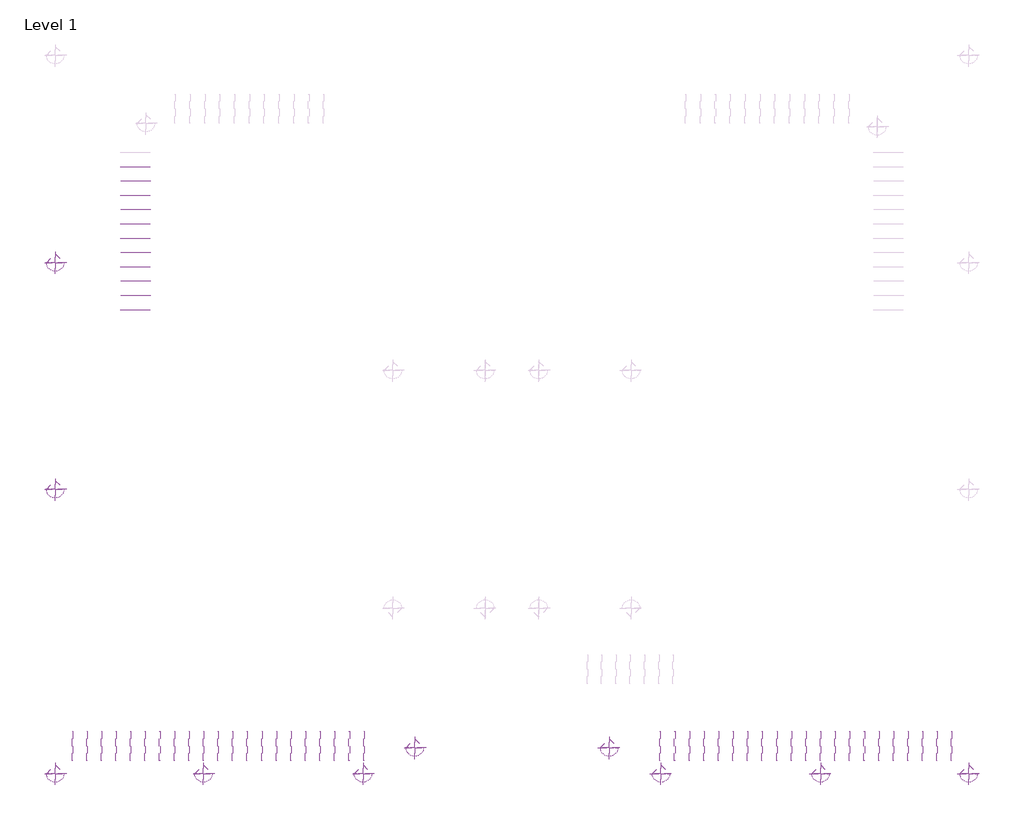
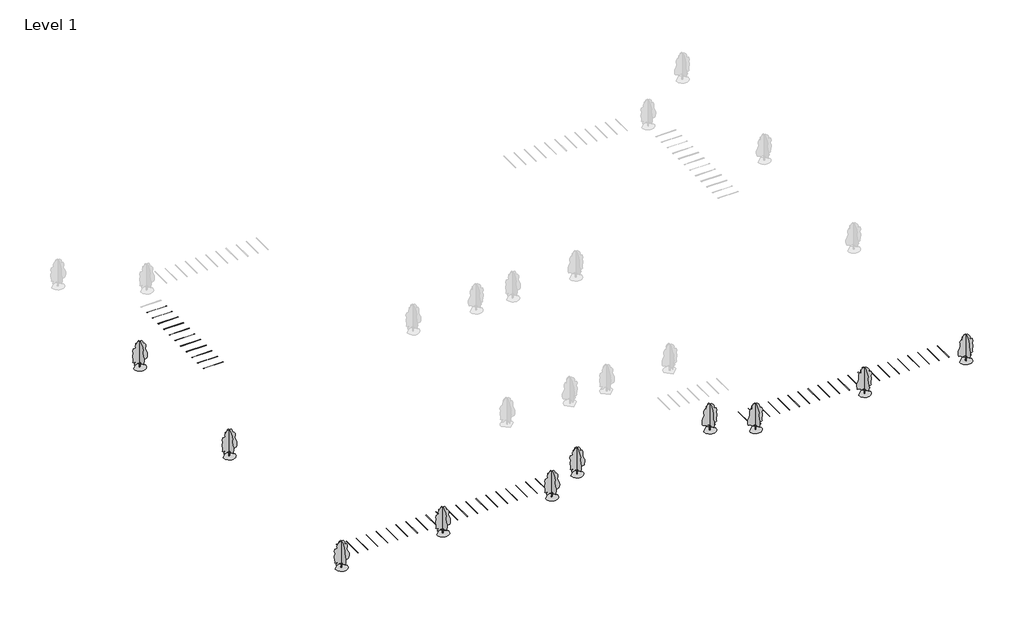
# One storey, part 1 of 2: 53 proxies, 10 geographic elements.
"""IFC4 building model written with IfcOpenShell, lengths in millimetres."""

from ifc_helpers import new_model, si_unit, origin, place, context, project, spatial, transform, mapped, element, save
from components import parking_space_9_x_18_90_deg_9fe051ab, parking_space_9_x_18_90_deg_b8b21359, rpc_tree_deciduous_red_ash_25_14781bec, rpc_tree_deciduous_red_ash_25_de8497d4

model = new_model("IFC4")

# Units and contexts
model_context = context("Model", 3, world=origin())
ifc_project = project(units=[si_unit("LENGTHUNIT", "METRE", prefix="MILLI")], contexts=[model_context])

# Site, building, storey
site = spatial("IfcSite", under=ifc_project)
building = spatial("IfcBuilding", under=site)
storey = spatial("IfcBuildingStorey", under=building, Name="Level 1", Elevation=0.0)

# Proxies
placement = place(None, origin())
parking_space_9_x_18_90_deg_shape = parking_space_9_x_18_90_deg_9fe051ab(model_context)
element("IfcBuildingElementProxy", 1, Name="Parking Space : 9' x 18' - 90 deg", ObjectType="Parking Space : 9' x 18' - 90 deg", at=placement, inside=storey, context=model_context, shape_type="MappedRepresentation", body=[
    mapped(parking_space_9_x_18_90_deg_shape, transform((-7609.1619016, -136535.1218628, 3124.2), x_axis=(-1.0, 0.0, 0.0), y_axis=(0.0, -1.0, 0.0), z_axis=(0.0, 0.0, 1.0))),
])
element("IfcBuildingElementProxy", 2, Name="Parking Space : 9' x 18' - 90 deg", ObjectType="Parking Space : 9' x 18' - 90 deg", at=placement, inside=storey, context=model_context, shape_type="MappedRepresentation", body=[
    mapped(parking_space_9_x_18_90_deg_shape, transform((-10352.3619016, -136535.1218628, 3124.2), x_axis=(-1.0, 0.0, 0.0), y_axis=(0.0, -1.0, 0.0), z_axis=(0.0, 0.0, 1.0))),
])
element("IfcBuildingElementProxy", 3, Name="Parking Space : 9' x 18' - 90 deg", ObjectType="Parking Space : 9' x 18' - 90 deg", at=placement, inside=storey, context=model_context, shape_type="MappedRepresentation", body=[
    mapped(parking_space_9_x_18_90_deg_shape, transform((-13095.5619016, -136535.1218628, 3124.2), x_axis=(-1.0, 0.0, 0.0), y_axis=(0.0, -1.0, 0.0), z_axis=(0.0, 0.0, 1.0))),
])
element("IfcBuildingElementProxy", 4, Name="Parking Space : 9' x 18' - 90 deg", ObjectType="Parking Space : 9' x 18' - 90 deg", at=placement, inside=storey, context=model_context, shape_type="MappedRepresentation", body=[
    mapped(parking_space_9_x_18_90_deg_shape, transform((-15838.7619016, -136535.1218628, 3124.2), x_axis=(-1.0, 0.0, 0.0), y_axis=(0.0, -1.0, 0.0), z_axis=(0.0, 0.0, 1.0))),
])
element("IfcBuildingElementProxy", 5, Name="Parking Space : 9' x 18' - 90 deg", ObjectType="Parking Space : 9' x 18' - 90 deg", at=placement, inside=storey, context=model_context, shape_type="MappedRepresentation", body=[
    mapped(parking_space_9_x_18_90_deg_shape, transform((-18581.9619016, -136535.1218628, 3124.2), x_axis=(-1.0, 0.0, 0.0), y_axis=(0.0, -1.0, 0.0), z_axis=(0.0, 0.0, 1.0))),
])
element("IfcBuildingElementProxy", 6, Name="Parking Space : 9' x 18' - 90 deg", ObjectType="Parking Space : 9' x 18' - 90 deg", at=placement, inside=storey, context=model_context, shape_type="MappedRepresentation", body=[
    mapped(parking_space_9_x_18_90_deg_shape, transform((-21325.1619016, -136535.1218628, 3124.2), x_axis=(-1.0, 0.0, 0.0), y_axis=(0.0, -1.0, 0.0), z_axis=(0.0, 0.0, 1.0))),
])
element("IfcBuildingElementProxy", 7, Name="Parking Space : 9' x 18' - 90 deg", ObjectType="Parking Space : 9' x 18' - 90 deg", at=placement, inside=storey, context=model_context, shape_type="MappedRepresentation", body=[
    mapped(parking_space_9_x_18_90_deg_shape, transform((-24068.3619016, -136535.1218628, 3124.2), x_axis=(-1.0, 0.0, 0.0), y_axis=(0.0, -1.0, 0.0), z_axis=(0.0, 0.0, 1.0))),
])
element("IfcBuildingElementProxy", 8, Name="Parking Space : 9' x 18' - 90 deg", ObjectType="Parking Space : 9' x 18' - 90 deg", at=placement, inside=storey, context=model_context, shape_type="MappedRepresentation", body=[
    mapped(parking_space_9_x_18_90_deg_shape, transform((-26811.5619016, -136535.1218628, 3124.2), x_axis=(-1.0, 0.0, 0.0), y_axis=(0.0, -1.0, 0.0), z_axis=(0.0, 0.0, 1.0))),
])
element("IfcBuildingElementProxy", 9, Name="Parking Space : 9' x 18' - 90 deg", ObjectType="Parking Space : 9' x 18' - 90 deg", at=placement, inside=storey, context=model_context, shape_type="MappedRepresentation", body=[
    mapped(parking_space_9_x_18_90_deg_shape, transform((-29554.7619016, -136535.1218628, 3124.2), x_axis=(-1.0, 0.0, 0.0), y_axis=(0.0, -1.0, 0.0), z_axis=(0.0, 0.0, 1.0))),
])
element("IfcBuildingElementProxy", 10, Name="Parking Space : 9' x 18' - 90 deg", ObjectType="Parking Space : 9' x 18' - 90 deg", at=placement, inside=storey, context=model_context, shape_type="MappedRepresentation", body=[
    mapped(parking_space_9_x_18_90_deg_shape, transform((-32297.9619016, -136535.1218628, 3124.2), x_axis=(-1.0, 0.0, 0.0), y_axis=(0.0, -1.0, 0.0), z_axis=(0.0, 0.0, 1.0))),
])
element("IfcBuildingElementProxy", 11, Name="Parking Space : 9' x 18' - 90 deg", ObjectType="Parking Space : 9' x 18' - 90 deg", at=placement, inside=storey, context=model_context, shape_type="MappedRepresentation", body=[
    mapped(parking_space_9_x_18_90_deg_shape, transform((-35041.1619016, -136535.1218628, 3124.2), x_axis=(-1.0, 0.0, 0.0), y_axis=(0.0, -1.0, 0.0), z_axis=(0.0, 0.0, 1.0))),
])
element("IfcBuildingElementProxy", 12, Name="Parking Space : 9' x 18' - 90 deg", ObjectType="Parking Space : 9' x 18' - 90 deg", at=placement, inside=storey, context=model_context, shape_type="MappedRepresentation", body=[
    mapped(parking_space_9_x_18_90_deg_shape, transform((-37784.3619016, -136535.1218628, 3124.2), x_axis=(-1.0, 0.0, 0.0), y_axis=(0.0, -1.0, 0.0), z_axis=(0.0, 0.0, 1.0))),
])
element("IfcBuildingElementProxy", 13, Name="Parking Space : 9' x 18' - 90 deg", ObjectType="Parking Space : 9' x 18' - 90 deg", at=placement, inside=storey, context=model_context, shape_type="MappedRepresentation", body=[
    mapped(parking_space_9_x_18_90_deg_shape, transform((-40527.5619016, -136535.1218628, 3124.2), x_axis=(-1.0, 0.0, 0.0), y_axis=(0.0, -1.0, 0.0), z_axis=(0.0, 0.0, 1.0))),
])
element("IfcBuildingElementProxy", 14, Name="Parking Space : 9' x 18' - 90 deg", ObjectType="Parking Space : 9' x 18' - 90 deg", at=placement, inside=storey, context=model_context, shape_type="MappedRepresentation", body=[
    mapped(parking_space_9_x_18_90_deg_shape, transform((-43270.7619016, -136535.1218628, 3124.2), x_axis=(-1.0, 0.0, 0.0), y_axis=(0.0, -1.0, 0.0), z_axis=(0.0, 0.0, 1.0))),
])
element("IfcBuildingElementProxy", 15, Name="Parking Space : 9' x 18' - 90 deg", ObjectType="Parking Space : 9' x 18' - 90 deg", at=placement, inside=storey, context=model_context, shape_type="MappedRepresentation", body=[
    mapped(parking_space_9_x_18_90_deg_shape, transform((-46013.9619016, -136535.1218628, 3124.2), x_axis=(-1.0, 0.0, 0.0), y_axis=(0.0, -1.0, 0.0), z_axis=(0.0, 0.0, 1.0))),
])
element("IfcBuildingElementProxy", 16, Name="Parking Space : 9' x 18' - 90 deg", ObjectType="Parking Space : 9' x 18' - 90 deg", at=placement, inside=storey, context=model_context, shape_type="MappedRepresentation", body=[
    mapped(parking_space_9_x_18_90_deg_shape, transform((-48757.1619016, -136535.1218628, 3124.2), x_axis=(-1.0, 0.0, 0.0), y_axis=(0.0, -1.0, 0.0), z_axis=(0.0, 0.0, 1.0))),
])
element("IfcBuildingElementProxy", 17, Name="Parking Space : 9' x 18' - 90 deg", ObjectType="Parking Space : 9' x 18' - 90 deg", at=placement, inside=storey, context=model_context, shape_type="MappedRepresentation", body=[
    mapped(parking_space_9_x_18_90_deg_shape, transform((-51500.3619016, -136535.1218628, 3124.2), x_axis=(-1.0, 0.0, 0.0), y_axis=(0.0, -1.0, 0.0), z_axis=(0.0, 0.0, 1.0))),
])
element("IfcBuildingElementProxy", 18, Name="Parking Space : 9' x 18' - 90 deg", ObjectType="Parking Space : 9' x 18' - 90 deg", at=placement, inside=storey, context=model_context, shape_type="MappedRepresentation", body=[
    mapped(parking_space_9_x_18_90_deg_shape, transform((-54243.5619016, -136535.1218628, 3124.2), x_axis=(-1.0, 0.0, 0.0), y_axis=(0.0, -1.0, 0.0), z_axis=(0.0, 0.0, 1.0))),
])
element("IfcBuildingElementProxy", 19, Name="Parking Space : 9' x 18' - 90 deg", ObjectType="Parking Space : 9' x 18' - 90 deg", at=placement, inside=storey, context=model_context, shape_type="MappedRepresentation", body=[
    mapped(parking_space_9_x_18_90_deg_shape, transform((-56986.7619016, -136535.1218628, 3124.2), x_axis=(-1.0, 0.0, 0.0), y_axis=(0.0, -1.0, 0.0), z_axis=(0.0, 0.0, 1.0))),
])
element("IfcBuildingElementProxy", 20, Name="Parking Space : 9' x 18' - 90 deg", ObjectType="Parking Space : 9' x 18' - 90 deg", at=placement, inside=storey, context=model_context, shape_type="MappedRepresentation", body=[
    mapped(parking_space_9_x_18_90_deg_shape, transform((-59729.9619016, -136535.1218628, 3124.2), x_axis=(-1.0, 0.0, 0.0), y_axis=(0.0, -1.0, 0.0), z_axis=(0.0, 0.0, 1.0))),
])
element("IfcBuildingElementProxy", 21, Name="Parking Space : 9' x 18' - 90 deg", ObjectType="Parking Space : 9' x 18' - 90 deg", at=placement, inside=storey, context=model_context, shape_type="MappedRepresentation", body=[
    mapped(parking_space_9_x_18_90_deg_shape, transform((-62473.1619016, -136535.1218628, 3124.2), x_axis=(-1.0, 0.0, 0.0), y_axis=(0.0, -1.0, 0.0), z_axis=(0.0, 0.0, 1.0))),
])
element("IfcBuildingElementProxy", 22, Name="Parking Space : 9' x 18' - 90 deg", ObjectType="Parking Space : 9' x 18' - 90 deg", at=placement, inside=storey, context=model_context, shape_type="MappedRepresentation", body=[
    mapped(parking_space_9_x_18_90_deg_shape, transform((-163971.5541504, -30261.5218628, 3124.2), x_axis=(0.0, -1.0, 0.0), y_axis=(1.0, 0.0, 0.0), z_axis=(0.0, 0.0, 1.0))),
])
element("IfcBuildingElementProxy", 23, Name="Parking Space : 9' x 18' - 90 deg", ObjectType="Parking Space : 9' x 18' - 90 deg", at=placement, inside=storey, context=model_context, shape_type="MappedRepresentation", body=[
    mapped(parking_space_9_x_18_90_deg_shape, transform((-163971.5541504, -32953.9218628, 3124.2), x_axis=(0.0, -1.0, 0.0), y_axis=(1.0, 0.0, 0.0), z_axis=(0.0, 0.0, 1.0))),
])
element("IfcBuildingElementProxy", 24, Name="Parking Space : 9' x 18' - 90 deg", ObjectType="Parking Space : 9' x 18' - 90 deg", at=placement, inside=storey, context=model_context, shape_type="MappedRepresentation", body=[
    mapped(parking_space_9_x_18_90_deg_shape, transform((-163971.5541504, -35646.3218628, 3124.2), x_axis=(0.0, -1.0, 0.0), y_axis=(1.0, 0.0, 0.0), z_axis=(0.0, 0.0, 1.0))),
])
element("IfcBuildingElementProxy", 25, Name="Parking Space : 9' x 18' - 90 deg", ObjectType="Parking Space : 9' x 18' - 90 deg", at=placement, inside=storey, context=model_context, shape_type="MappedRepresentation", body=[
    mapped(parking_space_9_x_18_90_deg_shape, transform((-163971.5541504, -38338.7218628, 3124.2), x_axis=(0.0, -1.0, 0.0), y_axis=(1.0, 0.0, 0.0), z_axis=(0.0, 0.0, 1.0))),
])
element("IfcBuildingElementProxy", 26, Name="Parking Space : 9' x 18' - 90 deg", ObjectType="Parking Space : 9' x 18' - 90 deg", at=placement, inside=storey, context=model_context, shape_type="MappedRepresentation", body=[
    mapped(parking_space_9_x_18_90_deg_shape, transform((-163971.5541504, -41031.1218628, 3124.2), x_axis=(0.0, -1.0, 0.0), y_axis=(1.0, 0.0, 0.0), z_axis=(0.0, 0.0, 1.0))),
])
element("IfcBuildingElementProxy", 27, Name="Parking Space : 9' x 18' - 90 deg", ObjectType="Parking Space : 9' x 18' - 90 deg", at=placement, inside=storey, context=model_context, shape_type="MappedRepresentation", body=[
    mapped(parking_space_9_x_18_90_deg_shape, transform((-163971.5541504, -43723.5218628, 3124.2), x_axis=(0.0, -1.0, 0.0), y_axis=(1.0, 0.0, 0.0), z_axis=(0.0, 0.0, 1.0))),
])
element("IfcBuildingElementProxy", 28, Name="Parking Space : 9' x 18' - 90 deg", ObjectType="Parking Space : 9' x 18' - 90 deg", at=placement, inside=storey, context=model_context, shape_type="MappedRepresentation", body=[
    mapped(parking_space_9_x_18_90_deg_shape, transform((-163971.5541504, -46415.9218628, 3124.2), x_axis=(0.0, -1.0, 0.0), y_axis=(1.0, 0.0, 0.0), z_axis=(0.0, 0.0, 1.0))),
])
element("IfcBuildingElementProxy", 29, Name="Parking Space : 9' x 18' - 90 deg", ObjectType="Parking Space : 9' x 18' - 90 deg", at=placement, inside=storey, context=model_context, shape_type="MappedRepresentation", body=[
    mapped(parking_space_9_x_18_90_deg_shape, transform((-163971.5541504, -49108.3218628, 3124.2), x_axis=(0.0, -1.0, 0.0), y_axis=(1.0, 0.0, 0.0), z_axis=(0.0, 0.0, 1.0))),
])
element("IfcBuildingElementProxy", 30, Name="Parking Space : 9' x 18' - 90 deg", ObjectType="Parking Space : 9' x 18' - 90 deg", at=placement, inside=storey, context=model_context, shape_type="MappedRepresentation", body=[
    mapped(parking_space_9_x_18_90_deg_shape, transform((-163971.5541504, -51800.7218628, 3124.2), x_axis=(0.0, -1.0, 0.0), y_axis=(1.0, 0.0, 0.0), z_axis=(0.0, 0.0, 1.0))),
])
element("IfcBuildingElementProxy", 31, Name="Parking Space : 9' x 18' - 90 deg", ObjectType="Parking Space : 9' x 18' - 90 deg", at=placement, inside=storey, context=model_context, shape_type="MappedRepresentation", body=[
    mapped(parking_space_9_x_18_90_deg_shape, transform((-163971.5541504, -54493.1218628, 3124.2), x_axis=(0.0, -1.0, 0.0), y_axis=(1.0, 0.0, 0.0), z_axis=(0.0, 0.0, 1.0))),
])
element("IfcBuildingElementProxy", 32, Name="Parking Space : 9' x 18' - 90 deg", ObjectType="Parking Space : 9' x 18' - 90 deg", at=placement, inside=storey, context=model_context, shape_type="MappedRepresentation", body=[
    mapped(parking_space_9_x_18_90_deg_shape, transform((-163971.5541504, -57185.5218628, 3124.2), x_axis=(0.0, -1.0, 0.0), y_axis=(1.0, 0.0, 0.0), z_axis=(0.0, 0.0, 1.0))),
])
parking_space_9_x_18_90_deg_2_shape = parking_space_9_x_18_90_deg_b8b21359(model_context)
element("IfcBuildingElementProxy", 33, Name="Parking Space : 9' x 18' - 90 deg", ObjectType="Parking Space : 9' x 18' - 90 deg", at=placement, inside=storey, context=model_context, shape_type="MappedRepresentation", body=[
    mapped(parking_space_9_x_18_90_deg_2_shape, transform((-173115.5541504, -136535.1218628, 3200.4), x_axis=(1.0, 0.0, 0.0), y_axis=(0.0, 1.0, 0.0), z_axis=(0.0, 0.0, 1.0))),
])
element("IfcBuildingElementProxy", 34, Name="Parking Space : 9' x 18' - 90 deg", ObjectType="Parking Space : 9' x 18' - 90 deg", at=placement, inside=storey, context=model_context, shape_type="MappedRepresentation", body=[
    mapped(parking_space_9_x_18_90_deg_2_shape, transform((-170372.3541504, -136535.1218628, 3124.2), x_axis=(1.0, 0.0, 0.0), y_axis=(0.0, 1.0, 0.0), z_axis=(0.0, 0.0, 1.0))),
])
element("IfcBuildingElementProxy", 35, Name="Parking Space : 9' x 18' - 90 deg", ObjectType="Parking Space : 9' x 18' - 90 deg", at=placement, inside=storey, context=model_context, shape_type="MappedRepresentation", body=[
    mapped(parking_space_9_x_18_90_deg_2_shape, transform((-167629.1541504, -136535.1218628, 3124.2), x_axis=(1.0, 0.0, 0.0), y_axis=(0.0, 1.0, 0.0), z_axis=(0.0, 0.0, 1.0))),
])
element("IfcBuildingElementProxy", 36, Name="Parking Space : 9' x 18' - 90 deg", ObjectType="Parking Space : 9' x 18' - 90 deg", at=placement, inside=storey, context=model_context, shape_type="MappedRepresentation", body=[
    mapped(parking_space_9_x_18_90_deg_2_shape, transform((-164885.9541504, -136535.1218628, 3124.2), x_axis=(1.0, 0.0, 0.0), y_axis=(0.0, 1.0, 0.0), z_axis=(0.0, 0.0, 1.0))),
])
element("IfcBuildingElementProxy", 37, Name="Parking Space : 9' x 18' - 90 deg", ObjectType="Parking Space : 9' x 18' - 90 deg", at=placement, inside=storey, context=model_context, shape_type="MappedRepresentation", body=[
    mapped(parking_space_9_x_18_90_deg_2_shape, transform((-162142.7541504, -136535.1218628, 3124.2), x_axis=(1.0, 0.0, 0.0), y_axis=(0.0, 1.0, 0.0), z_axis=(0.0, 0.0, 1.0))),
])
element("IfcBuildingElementProxy", 38, Name="Parking Space : 9' x 18' - 90 deg", ObjectType="Parking Space : 9' x 18' - 90 deg", at=placement, inside=storey, context=model_context, shape_type="MappedRepresentation", body=[
    mapped(parking_space_9_x_18_90_deg_2_shape, transform((-159399.5541504, -136535.1218628, 3124.2), x_axis=(1.0, 0.0, 0.0), y_axis=(0.0, 1.0, 0.0), z_axis=(0.0, 0.0, 1.0))),
])
element("IfcBuildingElementProxy", 39, Name="Parking Space : 9' x 18' - 90 deg", ObjectType="Parking Space : 9' x 18' - 90 deg", at=placement, inside=storey, context=model_context, shape_type="MappedRepresentation", body=[
    mapped(parking_space_9_x_18_90_deg_2_shape, transform((-156656.3541504, -136535.1218628, 3124.2), x_axis=(1.0, 0.0, 0.0), y_axis=(0.0, 1.0, 0.0), z_axis=(0.0, 0.0, 1.0))),
])
element("IfcBuildingElementProxy", 40, Name="Parking Space : 9' x 18' - 90 deg", ObjectType="Parking Space : 9' x 18' - 90 deg", at=placement, inside=storey, context=model_context, shape_type="MappedRepresentation", body=[
    mapped(parking_space_9_x_18_90_deg_2_shape, transform((-153913.1541504, -136535.1218628, 3124.2), x_axis=(1.0, 0.0, 0.0), y_axis=(0.0, 1.0, 0.0), z_axis=(0.0, 0.0, 1.0))),
])
element("IfcBuildingElementProxy", 41, Name="Parking Space : 9' x 18' - 90 deg", ObjectType="Parking Space : 9' x 18' - 90 deg", at=placement, inside=storey, context=model_context, shape_type="MappedRepresentation", body=[
    mapped(parking_space_9_x_18_90_deg_2_shape, transform((-151169.9541504, -136535.1218628, 3124.2), x_axis=(1.0, 0.0, 0.0), y_axis=(0.0, 1.0, 0.0), z_axis=(0.0, 0.0, 1.0))),
])
element("IfcBuildingElementProxy", 42, Name="Parking Space : 9' x 18' - 90 deg", ObjectType="Parking Space : 9' x 18' - 90 deg", at=placement, inside=storey, context=model_context, shape_type="MappedRepresentation", body=[
    mapped(parking_space_9_x_18_90_deg_2_shape, transform((-148426.7541504, -136535.1218628, 3124.2), x_axis=(1.0, 0.0, 0.0), y_axis=(0.0, 1.0, 0.0), z_axis=(0.0, 0.0, 1.0))),
])
element("IfcBuildingElementProxy", 43, Name="Parking Space : 9' x 18' - 90 deg", ObjectType="Parking Space : 9' x 18' - 90 deg", at=placement, inside=storey, context=model_context, shape_type="MappedRepresentation", body=[
    mapped(parking_space_9_x_18_90_deg_2_shape, transform((-145683.5541504, -136535.1218628, 3124.2), x_axis=(1.0, 0.0, 0.0), y_axis=(0.0, 1.0, 0.0), z_axis=(0.0, 0.0, 1.0))),
])
element("IfcBuildingElementProxy", 44, Name="Parking Space : 9' x 18' - 90 deg", ObjectType="Parking Space : 9' x 18' - 90 deg", at=placement, inside=storey, context=model_context, shape_type="MappedRepresentation", body=[
    mapped(parking_space_9_x_18_90_deg_2_shape, transform((-142940.3541504, -136535.1218628, 3124.2), x_axis=(1.0, 0.0, 0.0), y_axis=(0.0, 1.0, 0.0), z_axis=(0.0, 0.0, 1.0))),
])
element("IfcBuildingElementProxy", 45, Name="Parking Space : 9' x 18' - 90 deg", ObjectType="Parking Space : 9' x 18' - 90 deg", at=placement, inside=storey, context=model_context, shape_type="MappedRepresentation", body=[
    mapped(parking_space_9_x_18_90_deg_2_shape, transform((-140197.1541504, -136535.1218628, 3124.2), x_axis=(1.0, 0.0, 0.0), y_axis=(0.0, 1.0, 0.0), z_axis=(0.0, 0.0, 1.0))),
])
element("IfcBuildingElementProxy", 46, Name="Parking Space : 9' x 18' - 90 deg", ObjectType="Parking Space : 9' x 18' - 90 deg", at=placement, inside=storey, context=model_context, shape_type="MappedRepresentation", body=[
    mapped(parking_space_9_x_18_90_deg_2_shape, transform((-137453.9541504, -136535.1218628, 3124.2), x_axis=(1.0, 0.0, 0.0), y_axis=(0.0, 1.0, 0.0), z_axis=(0.0, 0.0, 1.0))),
])
element("IfcBuildingElementProxy", 47, Name="Parking Space : 9' x 18' - 90 deg", ObjectType="Parking Space : 9' x 18' - 90 deg", at=placement, inside=storey, context=model_context, shape_type="MappedRepresentation", body=[
    mapped(parking_space_9_x_18_90_deg_2_shape, transform((-134710.7541504, -136535.1218628, 3124.2), x_axis=(1.0, 0.0, 0.0), y_axis=(0.0, 1.0, 0.0), z_axis=(0.0, 0.0, 1.0))),
])
element("IfcBuildingElementProxy", 48, Name="Parking Space : 9' x 18' - 90 deg", ObjectType="Parking Space : 9' x 18' - 90 deg", at=placement, inside=storey, context=model_context, shape_type="MappedRepresentation", body=[
    mapped(parking_space_9_x_18_90_deg_2_shape, transform((-131967.5541504, -136535.1218628, 3124.2), x_axis=(1.0, 0.0, 0.0), y_axis=(0.0, 1.0, 0.0), z_axis=(0.0, 0.0, 1.0))),
])
element("IfcBuildingElementProxy", 49, Name="Parking Space : 9' x 18' - 90 deg", ObjectType="Parking Space : 9' x 18' - 90 deg", at=placement, inside=storey, context=model_context, shape_type="MappedRepresentation", body=[
    mapped(parking_space_9_x_18_90_deg_2_shape, transform((-129224.3541504, -136535.1218628, 3124.2), x_axis=(1.0, 0.0, 0.0), y_axis=(0.0, 1.0, 0.0), z_axis=(0.0, 0.0, 1.0))),
])
element("IfcBuildingElementProxy", 50, Name="Parking Space : 9' x 18' - 90 deg", ObjectType="Parking Space : 9' x 18' - 90 deg", at=placement, inside=storey, context=model_context, shape_type="MappedRepresentation", body=[
    mapped(parking_space_9_x_18_90_deg_2_shape, transform((-126481.1541504, -136535.1218628, 3124.2), x_axis=(1.0, 0.0, 0.0), y_axis=(0.0, 1.0, 0.0), z_axis=(0.0, 0.0, 1.0))),
])
element("IfcBuildingElementProxy", 51, Name="Parking Space : 9' x 18' - 90 deg", ObjectType="Parking Space : 9' x 18' - 90 deg", at=placement, inside=storey, context=model_context, shape_type="MappedRepresentation", body=[
    mapped(parking_space_9_x_18_90_deg_2_shape, transform((-123737.9541504, -136535.1218628, 3124.2), x_axis=(1.0, 0.0, 0.0), y_axis=(0.0, 1.0, 0.0), z_axis=(0.0, 0.0, 1.0))),
])
element("IfcBuildingElementProxy", 52, Name="Parking Space : 9' x 18' - 90 deg", ObjectType="Parking Space : 9' x 18' - 90 deg", at=placement, inside=storey, context=model_context, shape_type="MappedRepresentation", body=[
    mapped(parking_space_9_x_18_90_deg_2_shape, transform((-120994.7541504, -136535.1218628, 3124.2), x_axis=(1.0, 0.0, 0.0), y_axis=(0.0, 1.0, 0.0), z_axis=(0.0, 0.0, 1.0))),
])
element("IfcBuildingElementProxy", 53, Name="Parking Space : 9' x 18' - 90 deg", ObjectType="Parking Space : 9' x 18' - 90 deg", at=placement, inside=storey, context=model_context, shape_type="MappedRepresentation", body=[
    mapped(parking_space_9_x_18_90_deg_2_shape, transform((-118251.5541504, -136535.1218628, 3124.2), x_axis=(1.0, 0.0, 0.0), y_axis=(0.0, 1.0, 0.0), z_axis=(0.0, 0.0, 1.0))),
])

# Geographic elements
rpc_tree_deciduous_red_ash_25_shape = rpc_tree_deciduous_red_ash_25_14781bec(model_context)
element("IfcGeographicElement", 54, ObjectType="RPC Tree - Deciduous : Red Ash - 25'", at=placement, inside=storey, context=model_context, shape_type="MappedRepresentation", body=[
    mapped(rpc_tree_deciduous_red_ash_25_shape, transform((-176315.958026, -144459.9218987, 2486.5258864), x_axis=(1.0, 0.0, 0.0), y_axis=(0.0, 1.0, 0.0), z_axis=(0.0, 0.0, 1.0))),
])
element("IfcGeographicElement", 55, ObjectType="RPC Tree - Deciduous : Red Ash - 25'", at=placement, inside=storey, context=model_context, shape_type="MappedRepresentation", body=[
    mapped(rpc_tree_deciduous_red_ash_25_shape, transform((-148426.7541504, -144459.9218987, 2690.8130521), x_axis=(1.0, 0.0, 0.0), y_axis=(0.0, 1.0, 0.0), z_axis=(0.0, 0.0, 1.0))),
])
element("IfcGeographicElement", 56, ObjectType="RPC Tree - Deciduous : Red Ash - 25'", at=placement, inside=storey, context=model_context, shape_type="MappedRepresentation", body=[
    mapped(rpc_tree_deciduous_red_ash_25_shape, transform((-118403.958026, -144459.9218987, 2690.8130521), x_axis=(1.0, 0.0, 0.0), y_axis=(0.0, 1.0, 0.0), z_axis=(0.0, 0.0, 1.0))),
])
element("IfcGeographicElement", 57, ObjectType="RPC Tree - Deciduous : Red Ash - 25'", at=placement, inside=storey, context=model_context, shape_type="MappedRepresentation", body=[
    mapped(rpc_tree_deciduous_red_ash_25_shape, transform((-108650.358026, -139583.1218987, 3048.0), x_axis=(1.0, 0.0, 0.0), y_axis=(0.0, 1.0, 0.0), z_axis=(0.0, 0.0, 1.0))),
])
element("IfcGeographicElement", 58, ObjectType="RPC Tree - Deciduous : Red Ash - 25'", at=placement, inside=storey, context=model_context, shape_type="MappedRepresentation", body=[
    mapped(rpc_tree_deciduous_red_ash_25_shape, transform((-176315.958026, -90967.5218987, 2486.5258864), x_axis=(1.0, 0.0, 0.0), y_axis=(0.0, 1.0, 0.0), z_axis=(0.0, 0.0, 1.0))),
])
element("IfcGeographicElement", 59, ObjectType="RPC Tree - Deciduous : Red Ash - 25'", at=placement, inside=storey, context=model_context, shape_type="MappedRepresentation", body=[
    mapped(rpc_tree_deciduous_red_ash_25_shape, transform((-176315.958026, -48295.5218987, 2486.5258864), x_axis=(1.0, 0.0, 0.0), y_axis=(0.0, 1.0, 0.0), z_axis=(0.0, 0.0, 1.0))),
])
rpc_tree_deciduous_red_ash_25_2_shape = rpc_tree_deciduous_red_ash_25_de8497d4(model_context)
element("IfcGeographicElement", 60, ObjectType="RPC Tree - Deciduous : Red Ash - 25'", at=placement, inside=storey, context=model_context, shape_type="MappedRepresentation", body=[
    mapped(rpc_tree_deciduous_red_ash_25_2_shape, transform((-4408.758026, -144459.9218987, 2486.5258864), x_axis=(-1.0, 0.0, 0.0), y_axis=(0.0, -1.0, 0.0), z_axis=(0.0, 0.0, 1.0))),
])
element("IfcGeographicElement", 61, ObjectType="RPC Tree - Deciduous : Red Ash - 25'", at=placement, inside=storey, context=model_context, shape_type="MappedRepresentation", body=[
    mapped(rpc_tree_deciduous_red_ash_25_2_shape, transform((-32297.9619016, -144459.9218987, 2690.8130521), x_axis=(-1.0, 0.0, 0.0), y_axis=(0.0, -1.0, 0.0), z_axis=(0.0, 0.0, 1.0))),
])
element("IfcGeographicElement", 62, ObjectType="RPC Tree - Deciduous : Red Ash - 25'", at=placement, inside=storey, context=model_context, shape_type="MappedRepresentation", body=[
    mapped(rpc_tree_deciduous_red_ash_25_2_shape, transform((-62320.758026, -144459.9218987, 2690.8130521), x_axis=(-1.0, 0.0, 0.0), y_axis=(0.0, -1.0, 0.0), z_axis=(0.0, 0.0, 1.0))),
])
element("IfcGeographicElement", 63, ObjectType="RPC Tree - Deciduous : Red Ash - 25'", at=placement, inside=storey, context=model_context, shape_type="MappedRepresentation", body=[
    mapped(rpc_tree_deciduous_red_ash_25_2_shape, transform((-72074.358026, -139583.1218987, 3048.0), x_axis=(-1.0, 0.0, 0.0), y_axis=(0.0, -1.0, 0.0), z_axis=(0.0, 0.0, 1.0))),
])

save(model, "model.ifc")
